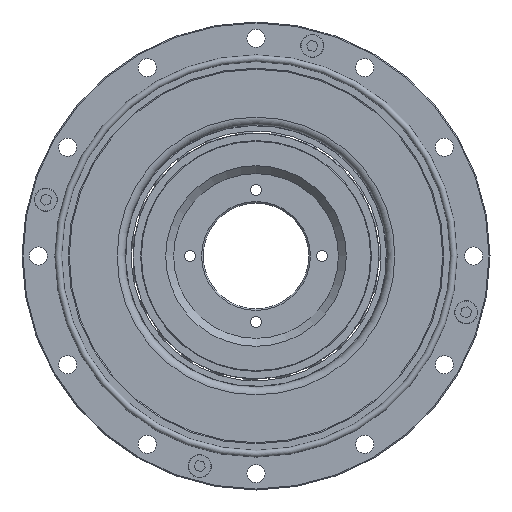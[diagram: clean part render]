
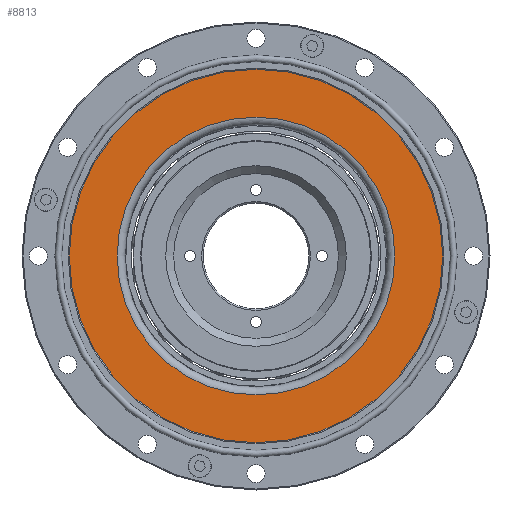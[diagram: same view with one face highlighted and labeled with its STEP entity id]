
A CAD part, left-side view. The second image highlights one B-rep face of the part: STEP entity #8813.
In plain terms, the highlighted planar face has unit normal (-1, 0, 0).
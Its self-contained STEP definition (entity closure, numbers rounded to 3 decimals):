
#632 = EDGE_LOOP ( 'NONE', ( #2807 ) ) ;
#721 = DIRECTION ( 'NONE',  ( 1., 0., 0. ) ) ;
#1470 = EDGE_CURVE ( 'NONE', #9108, #9108, #6313, .T. ) ;
#1977 = AXIS2_PLACEMENT_3D ( 'NONE', #7762, #7772, #2853 ) ;
#2256 = AXIS2_PLACEMENT_3D ( 'NONE', #9611, #7943, #3099 ) ;
#2327 = PLANE ( 'NONE',  #2256 ) ;
#2742 = ORIENTED_EDGE ( 'NONE', *, *, #1470, .F. ) ;
#2807 = ORIENTED_EDGE ( 'NONE', *, *, #7572, .T. ) ;
#2853 = DIRECTION ( 'NONE',  ( 0., 0., -1. ) ) ;
#2967 = CARTESIAN_POINT ( 'NONE',  ( -0.46, 0., -56.675 ) ) ;
#3099 = DIRECTION ( 'NONE',  ( 0., 0., 1. ) ) ;
#3767 = CIRCLE ( 'NONE', #8064, 42.136 ) ;
#5486 = CARTESIAN_POINT ( 'NONE',  ( -0.46, 0., 0. ) ) ;
#6306 = DIRECTION ( 'NONE',  ( 0., 0., -1. ) ) ;
#6313 = CIRCLE ( 'NONE', #1977, 56.675 ) ;
#6714 = FACE_BOUND ( 'NONE', #632, .T. ) ;
#7367 = CARTESIAN_POINT ( 'NONE',  ( -0.46, 0., -42.136 ) ) ;
#7572 = EDGE_CURVE ( 'NONE', #9777, #9777, #3767, .T. ) ;
#7762 = CARTESIAN_POINT ( 'NONE',  ( -0.46, 0., 0. ) ) ;
#7772 = DIRECTION ( 'NONE',  ( 1., 0., 0. ) ) ;
#7943 = DIRECTION ( 'NONE',  ( -1., 0., 0. ) ) ;
#8064 = AXIS2_PLACEMENT_3D ( 'NONE', #5486, #721, #6306 ) ;
#8813 = ADVANCED_FACE ( 'NONE', ( #6714, #8901 ), #2327, .T. ) ;
#8901 = FACE_OUTER_BOUND ( 'NONE', #9759, .T. ) ;
#9108 = VERTEX_POINT ( 'NONE', #2967 ) ;
#9611 = CARTESIAN_POINT ( 'NONE',  ( -0.46, 0., 0. ) ) ;
#9759 = EDGE_LOOP ( 'NONE', ( #2742 ) ) ;
#9777 = VERTEX_POINT ( 'NONE', #7367 ) ;
